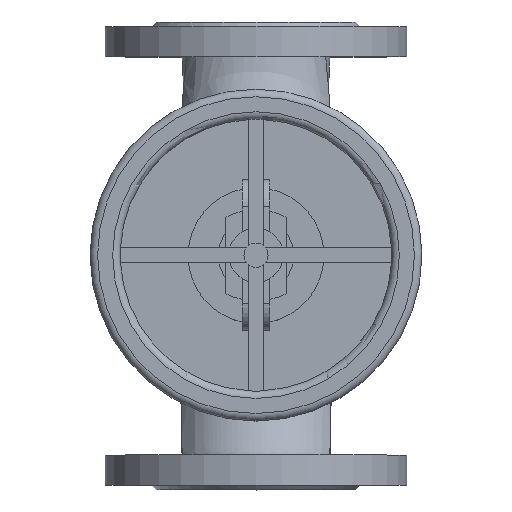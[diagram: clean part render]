
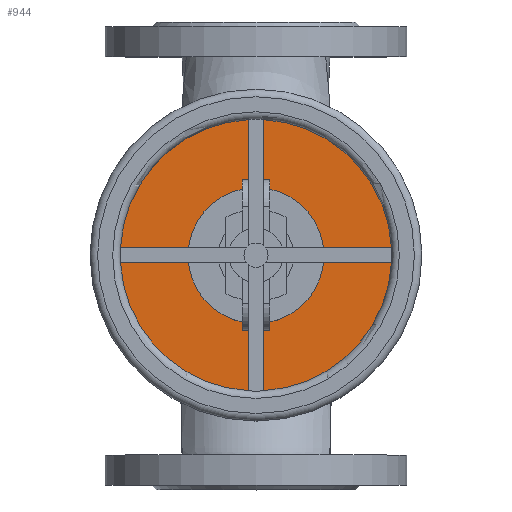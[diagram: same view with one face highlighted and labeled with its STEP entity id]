
A CAD part, top view. The second image highlights one B-rep face of the part: STEP entity #944.
In plain terms, the highlighted planar face has unit normal (0, 0, 1).
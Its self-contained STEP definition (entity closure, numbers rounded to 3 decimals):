
#944=ADVANCED_FACE('',(#8819,#8821),#8823,.T.);
#8819=FACE_BOUND('',#8820,.T.);
#8820=EDGE_LOOP('',(#14465));
#8821=FACE_BOUND('',#8822,.T.);
#8822=EDGE_LOOP('',(#14466));
#8823=PLANE('',#8824);
#8824=AXIS2_PLACEMENT_3D('',#8825,#8826,#8827);
#8825=CARTESIAN_POINT('',(0.,0.,122.));
#8826=DIRECTION('',(0.,0.,1.));
#8827=DIRECTION('',(0.,1.,0.));
#14465=ORIENTED_EDGE('',*,*,#15262,.F.);
#14466=ORIENTED_EDGE('',*,*,#15294,.T.);
#15262=EDGE_CURVE('',#15951,#15951,#15952,.T.);
#15294=EDGE_CURVE('',#16003,#16003,#16004,.T.);
#15951=VERTEX_POINT('',#19735);
#15952=CIRCLE('',#19736,95.);
#16003=VERTEX_POINT('',#20543);
#16004=CIRCLE('',#20544,45.);
#19735=CARTESIAN_POINT('',(0.,95.,122.));
#19736=AXIS2_PLACEMENT_3D('',#19737,#19738,#19739);
#19737=CARTESIAN_POINT('',(0.,0.,122.));
#19738=DIRECTION('',(0.,0.,-1.));
#19739=DIRECTION('',(0.,1.,0.));
#20543=CARTESIAN_POINT('',(0.,45.,122.));
#20544=AXIS2_PLACEMENT_3D('',#20545,#20546,#20547);
#20545=CARTESIAN_POINT('',(0.,0.,122.));
#20546=DIRECTION('',(0.,0.,-1.));
#20547=DIRECTION('',(0.,1.,0.));
